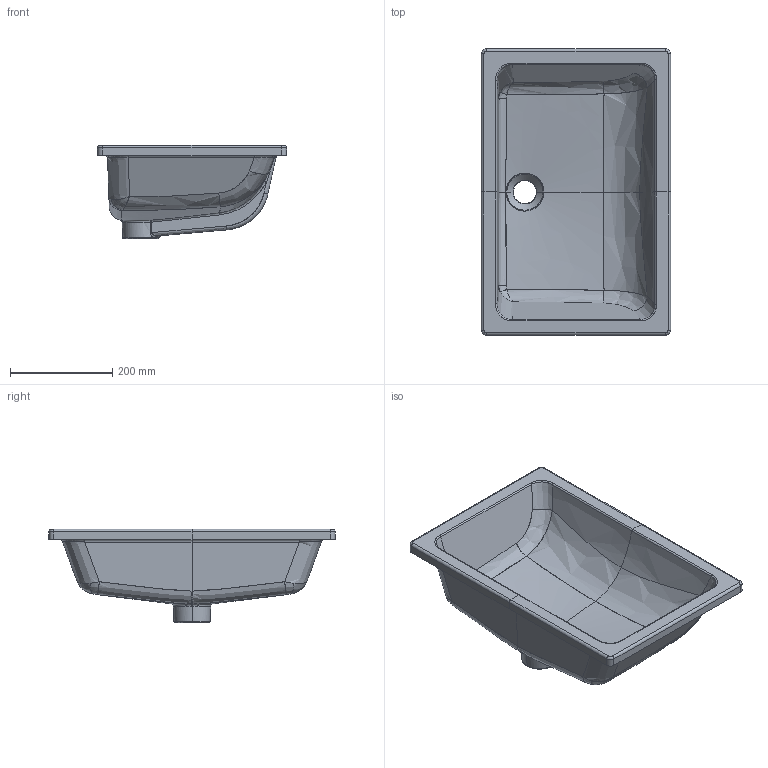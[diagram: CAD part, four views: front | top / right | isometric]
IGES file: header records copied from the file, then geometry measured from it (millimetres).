
Start section: START RECORD GO HERE.
Global section: file name: 2035_3D Lavabo sottopiano.igs; native system: DASSAULT SYSTEMES CATIA V5 R19 - www.3ds.com; preprocessor: CATIA Version 5 Release 19 SP 5 ; author: gioge; organization: LAPTOP-G94B6G74; date: 20200622.115229; units: millimetre
Bounding box: 370 x 560 x 182.5 mm (x, y, z)
Surface area: 696239.3 mm2 (no closed solid volume)
Topology: 0 solids, 0 shells, 150 faces, 674 edges, 668 vertices
Faces by surface type: bspline 78, revolution 48, plane 20, extrusion 4
